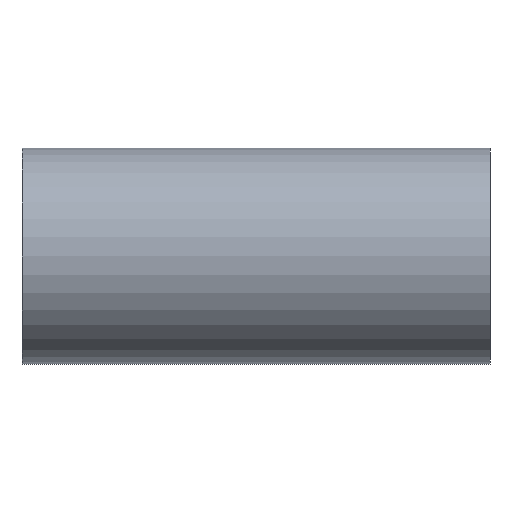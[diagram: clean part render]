
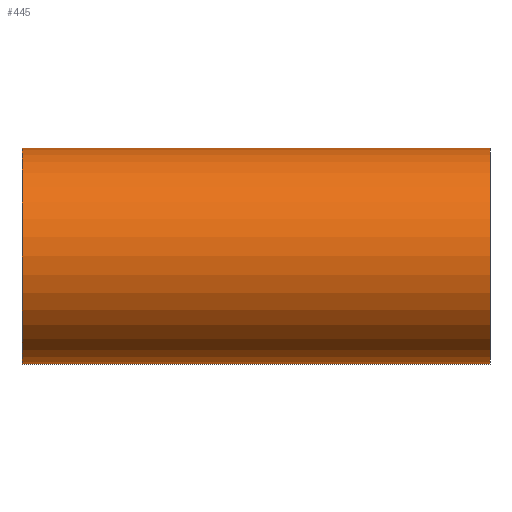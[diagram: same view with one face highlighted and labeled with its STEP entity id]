
A CAD part, front view. The second image highlights one B-rep face of the part: STEP entity #445.
In plain terms, the highlighted cylindrical face has radius 38.1 mm (diameter 76.2 mm), a partial arc.
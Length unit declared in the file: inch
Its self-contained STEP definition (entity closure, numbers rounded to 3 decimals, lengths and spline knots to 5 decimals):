
#3 = CARTESIAN_POINT ( 'NONE',  ( 3.25, 0., 1.5 ) ) ;
#24 = CARTESIAN_POINT ( 'NONE',  ( -3.25, 0., 1.5 ) ) ;
#59 = CARTESIAN_POINT ( 'NONE',  ( 3.25, 0., 1.5 ) ) ;
#72 = DIRECTION ( 'NONE',  ( -1., 0., 0. ) ) ;
#84 = DIRECTION ( 'NONE',  ( 1., 0., 0. ) ) ;
#88 = CARTESIAN_POINT ( 'NONE',  ( 3.25, 0., 0. ) ) ;
#90 = DIRECTION ( 'NONE',  ( 0., 0., 1. ) ) ;
#97 = VERTEX_POINT ( 'NONE', #321 ) ;
#104 = CYLINDRICAL_SURFACE ( 'NONE', #307, 1.5 ) ;
#106 = VECTOR ( 'NONE', #404, 39.37008 ) ;
#116 = LINE ( 'NONE', #59, #106 ) ;
#137 = FACE_OUTER_BOUND ( 'NONE', #349, .T. ) ;
#139 = VECTOR ( 'NONE', #72, 39.37008 ) ;
#143 = LINE ( 'NONE', #430, #139 ) ;
#155 = VECTOR ( 'NONE', #311, 39.37008 ) ;
#161 = CIRCLE ( 'NONE', #358, 1.5 ) ;
#163 = DIRECTION ( 'NONE',  ( 1., 0., 0. ) ) ;
#168 = CIRCLE ( 'NONE', #400, 1.5 ) ;
#172 = LINE ( 'NONE', #3, #155 ) ;
#179 = VECTOR ( 'NONE', #322, 39.37008 ) ;
#182 = LINE ( 'NONE', #236, #179 ) ;
#214 = CARTESIAN_POINT ( 'NONE',  ( 3.25, 0., 0. ) ) ;
#224 = ORIENTED_EDGE ( 'NONE', *, *, #294, .F. ) ;
#228 = ORIENTED_EDGE ( 'NONE', *, *, #411, .T. ) ;
#236 = CARTESIAN_POINT ( 'NONE',  ( 3.25, 0., -1.5 ) ) ;
#238 = CARTESIAN_POINT ( 'NONE',  ( 3.25, 0., 1.5 ) ) ;
#247 = DIRECTION ( 'NONE',  ( 0., 0., -1. ) ) ;
#249 = VERTEX_POINT ( 'NONE', #427 ) ;
#272 = VERTEX_POINT ( 'NONE', #389 ) ;
#274 = ORIENTED_EDGE ( 'NONE', *, *, #446, .T. ) ;
#281 = VERTEX_POINT ( 'NONE', #238 ) ;
#282 = CARTESIAN_POINT ( 'NONE',  ( 0., 0., -1.5 ) ) ;
#287 = CARTESIAN_POINT ( 'NONE',  ( -3.25, 0., 0. ) ) ;
#294 = EDGE_CURVE ( 'NONE', #97, #295, #182, .T. ) ;
#295 = VERTEX_POINT ( 'NONE', #282 ) ;
#303 = ORIENTED_EDGE ( 'NONE', *, *, #412, .T. ) ;
#307 = AXIS2_PLACEMENT_3D ( 'NONE', #214, #344, #90 ) ;
#309 = EDGE_CURVE ( 'NONE', #281, #97, #168, .T. ) ;
#311 = DIRECTION ( 'NONE',  ( -1., 0., 0. ) ) ;
#319 = ORIENTED_EDGE ( 'NONE', *, *, #309, .F. ) ;
#321 = CARTESIAN_POINT ( 'NONE',  ( 3.25, 0., -1.5 ) ) ;
#322 = DIRECTION ( 'NONE',  ( -1., 0., 0. ) ) ;
#344 = DIRECTION ( 'NONE',  ( -1., 0., 0. ) ) ;
#349 = EDGE_LOOP ( 'NONE', ( #224, #319, #274, #228, #303, #367 ) ) ;
#358 = AXIS2_PLACEMENT_3D ( 'NONE', #287, #84, #247 ) ;
#364 = DIRECTION ( 'NONE',  ( 0., 0., -1. ) ) ;
#367 = ORIENTED_EDGE ( 'NONE', *, *, #423, .F. ) ;
#373 = VERTEX_POINT ( 'NONE', #24 ) ;
#389 = CARTESIAN_POINT ( 'NONE',  ( 0., 0., 1.5 ) ) ;
#400 = AXIS2_PLACEMENT_3D ( 'NONE', #88, #163, #364 ) ;
#404 = DIRECTION ( 'NONE',  ( -1., 0., 0. ) ) ;
#411 = EDGE_CURVE ( 'NONE', #272, #373, #172, .T. ) ;
#412 = EDGE_CURVE ( 'NONE', #373, #249, #161, .T. ) ;
#423 = EDGE_CURVE ( 'NONE', #295, #249, #143, .T. ) ;
#427 = CARTESIAN_POINT ( 'NONE',  ( -3.25, 0., -1.5 ) ) ;
#430 = CARTESIAN_POINT ( 'NONE',  ( 3.25, 0., -1.5 ) ) ;
#445 = ADVANCED_FACE ( 'NONE', ( #137 ), #104, .T. ) ;
#446 = EDGE_CURVE ( 'NONE', #281, #272, #116, .T. ) ;
